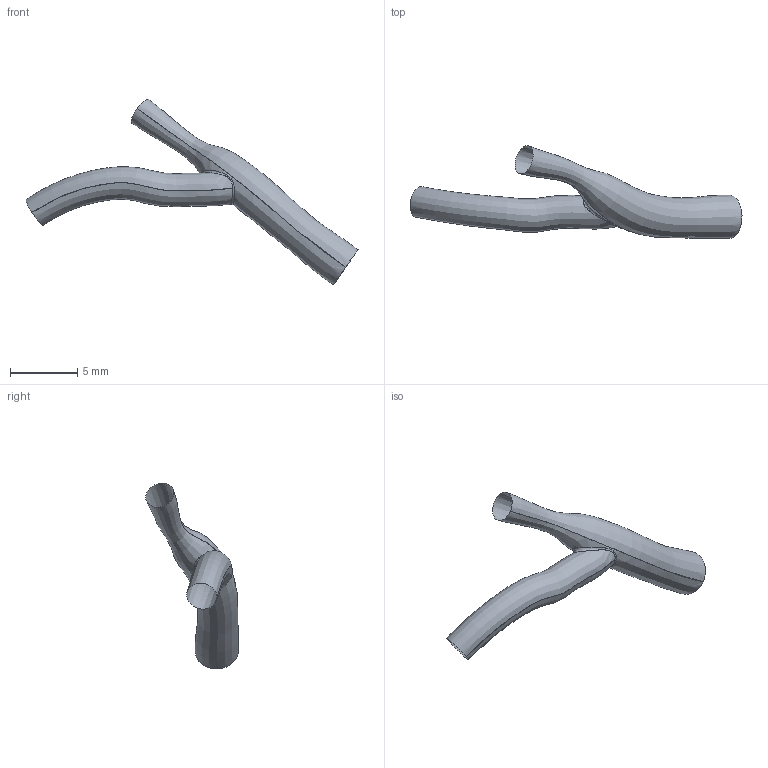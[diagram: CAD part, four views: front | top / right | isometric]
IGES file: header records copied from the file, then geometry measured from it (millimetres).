
Global section: file name: C:\Documents and Settings\Administrator\Desktop\FDA Bifurcation win\RawData_for_IGES\HRCA_Data\20010719.155526\IGES\20010719.155526.PDA.BIFUR.ES.igs; native system: Rhinoceros ( May 19 2006 ); preprocessor: Trout Lake IGES 012 May 19 2006; date: 100728.211722; units: centimetre
Bounding box: 24.64 x 6.86 x 13.8 mm (x, y, z)
Surface area: 272.1 mm2 (no closed solid volume)
Topology: 0 solids, 0 shells, 3 faces, 50 edges, 45 vertices
Faces by surface type: bspline 3
